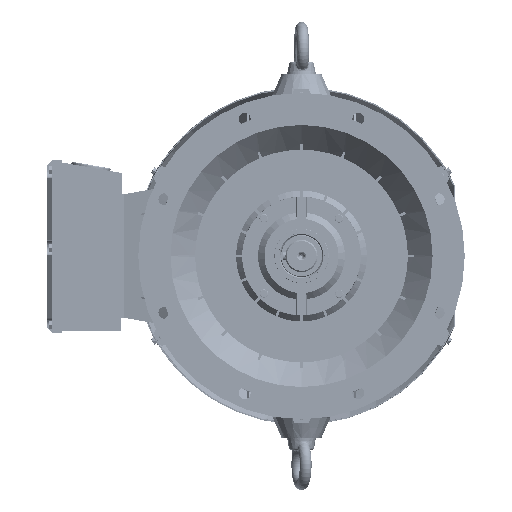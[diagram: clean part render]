
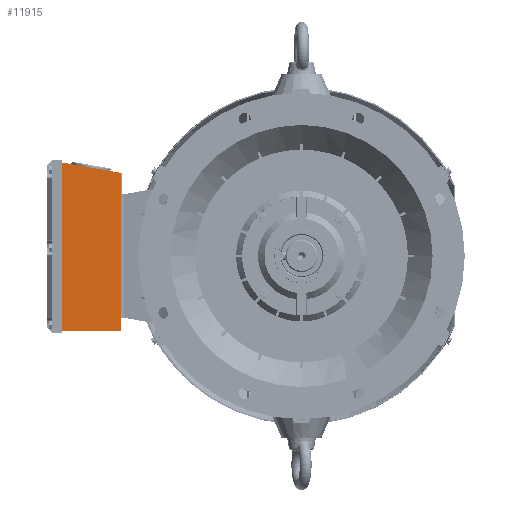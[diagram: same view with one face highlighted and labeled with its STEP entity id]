
A CAD part, left-side view. The second image highlights one B-rep face of the part: STEP entity #11915.
In plain terms, the highlighted planar face has unit normal (-1, 0, 0).
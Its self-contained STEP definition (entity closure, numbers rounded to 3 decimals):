
#5363 = ORIENTED_EDGE ( 'NONE', *, *, #100492, .T. ) ;
#7361 = LINE ( 'NONE', #50309, #46762 ) ;
#8382 = DIRECTION ( 'NONE',  ( 0., 0.985, 0.174 ) ) ;
#11915 = ADVANCED_FACE ( 'NONE', ( #172181 ), #146998, .T. ) ;
#16246 = CARTESIAN_POINT ( 'NONE',  ( -139.172, 331.262, -151. ) ) ;
#35781 = CARTESIAN_POINT ( 'NONE',  ( -139.172, 450.262, -125. ) ) ;
#37250 = DIRECTION ( 'NONE',  ( 0., 0., 1. ) ) ;
#46762 = VECTOR ( 'NONE', #183768, 1000. ) ;
#46846 = ORIENTED_EDGE ( 'NONE', *, *, #66227, .T. ) ;
#50309 = CARTESIAN_POINT ( 'NONE',  ( -139.172, 331.262, -151. ) ) ;
#52798 = LINE ( 'NONE', #120986, #91765 ) ;
#66227 = EDGE_CURVE ( 'NONE', #95214, #235585, #86799, .T. ) ;
#86799 = LINE ( 'NONE', #199476, #125432 ) ;
#91765 = VECTOR ( 'NONE', #8382, 1000. ) ;
#95214 = VERTEX_POINT ( 'NONE', #120767 ) ;
#99682 = ORIENTED_EDGE ( 'NONE', *, *, #106797, .T. ) ;
#100492 = EDGE_CURVE ( 'NONE', #237974, #95214, #52798, .T. ) ;
#106797 = EDGE_CURVE ( 'NONE', #235585, #289604, #7361, .T. ) ;
#120767 = CARTESIAN_POINT ( 'NONE',  ( -139.172, 450.262, 189.012 ) ) ;
#120986 = CARTESIAN_POINT ( 'NONE',  ( -139.172, 328.262, 167.5 ) ) ;
#123278 = DIRECTION ( 'NONE',  ( -1., 0., 0. ) ) ;
#125432 = VECTOR ( 'NONE', #243951, 1000. ) ;
#146998 = PLANE ( 'NONE',  #261603 ) ;
#164655 = ORIENTED_EDGE ( 'NONE', *, *, #241223, .T. ) ;
#172181 = FACE_OUTER_BOUND ( 'NONE', #230971, .T. ) ;
#183768 = DIRECTION ( 'NONE',  ( 0., -1., 0. ) ) ;
#199476 = CARTESIAN_POINT ( 'NONE',  ( -139.172, 450.262, -151. ) ) ;
#216324 = LINE ( 'NONE', #16246, #246305 ) ;
#230587 = CARTESIAN_POINT ( 'NONE',  ( -139.172, 331.262, -151. ) ) ;
#230971 = EDGE_LOOP ( 'NONE', ( #164655, #5363, #46846, #99682 ) ) ;
#235585 = VERTEX_POINT ( 'NONE', #273677 ) ;
#237974 = VERTEX_POINT ( 'NONE', #250404 ) ;
#241223 = EDGE_CURVE ( 'NONE', #289604, #237974, #216324, .T. ) ;
#243951 = DIRECTION ( 'NONE',  ( 0., 0., -1. ) ) ;
#246305 = VECTOR ( 'NONE', #283053, 1000. ) ;
#250404 = CARTESIAN_POINT ( 'NONE',  ( -139.172, 331.262, 168.029 ) ) ;
#261603 = AXIS2_PLACEMENT_3D ( 'NONE', #35781, #123278, #37250 ) ;
#273677 = CARTESIAN_POINT ( 'NONE',  ( -139.172, 450.262, -151. ) ) ;
#283053 = DIRECTION ( 'NONE',  ( 0., 0., 1. ) ) ;
#289604 = VERTEX_POINT ( 'NONE', #230587 ) ;
